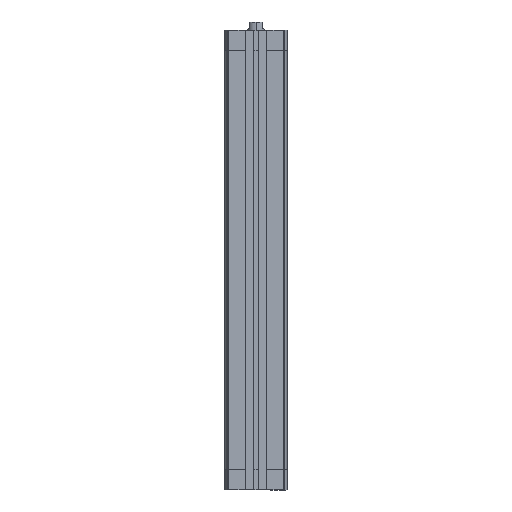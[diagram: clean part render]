
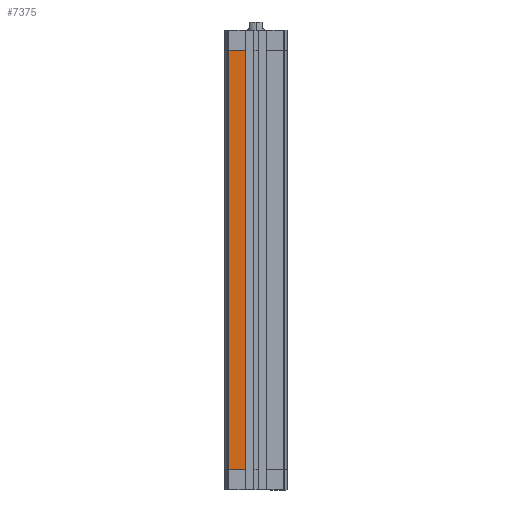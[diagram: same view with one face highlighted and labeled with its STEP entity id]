
A CAD part, left-side view. The second image highlights one B-rep face of the part: STEP entity #7375.
In plain terms, the highlighted planar face has unit normal (-1, 0, 0).
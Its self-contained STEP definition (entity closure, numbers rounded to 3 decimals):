
#491 = CARTESIAN_POINT ( 'NONE',  ( -23.25, 7.95, -329. ) ) ;
#634 = DIRECTION ( 'NONE',  ( 0., 0., 1. ) ) ;
#1245 = EDGE_CURVE ( 'NONE', #8440, #8387, #9989, .T. ) ;
#1552 = EDGE_CURVE ( 'NONE', #8440, #2555, #6515, .T. ) ;
#1907 = CARTESIAN_POINT ( 'NONE',  ( -23.25, 20.543, -329. ) ) ;
#2555 = VERTEX_POINT ( 'NONE', #14295 ) ;
#2720 = LINE ( 'NONE', #12907, #13423 ) ;
#2822 = ORIENTED_EDGE ( 'NONE', *, *, #1552, .F. ) ;
#2971 = EDGE_LOOP ( 'NONE', ( #7751, #2822, #9625, #13987 ) ) ;
#2973 = VECTOR ( 'NONE', #4114, 1000. ) ;
#4114 = DIRECTION ( 'NONE',  ( 0., 0., -1. ) ) ;
#4521 = DIRECTION ( 'NONE',  ( 0., 0., -1. ) ) ;
#5350 = CARTESIAN_POINT ( 'NONE',  ( -23.25, 20.543, -15. ) ) ;
#5877 = FACE_OUTER_BOUND ( 'NONE', #2971, .T. ) ;
#6397 = LINE ( 'NONE', #1907, #15570 ) ;
#6515 = LINE ( 'NONE', #491, #2973 ) ;
#7375 = ADVANCED_FACE ( 'NONE', ( #5877 ), #12676, .T. ) ;
#7751 = ORIENTED_EDGE ( 'NONE', *, *, #9581, .T. ) ;
#7894 = DIRECTION ( 'NONE',  ( -1., 0., 0. ) ) ;
#8387 = VERTEX_POINT ( 'NONE', #5350 ) ;
#8440 = VERTEX_POINT ( 'NONE', #13793 ) ;
#9581 = EDGE_CURVE ( 'NONE', #12039, #2555, #6397, .T. ) ;
#9625 = ORIENTED_EDGE ( 'NONE', *, *, #1245, .T. ) ;
#9989 = LINE ( 'NONE', #12028, #13107 ) ;
#10419 = DIRECTION ( 'NONE',  ( 0., 1., 0. ) ) ;
#11903 = AXIS2_PLACEMENT_3D ( 'NONE', #15028, #7894, #634 ) ;
#12028 = CARTESIAN_POINT ( 'NONE',  ( -23.25, 0., -15. ) ) ;
#12039 = VERTEX_POINT ( 'NONE', #15283 ) ;
#12597 = EDGE_CURVE ( 'NONE', #8387, #12039, #2720, .T. ) ;
#12676 = PLANE ( 'NONE',  #11903 ) ;
#12907 = CARTESIAN_POINT ( 'NONE',  ( -23.25, 20.543, -329. ) ) ;
#13107 = VECTOR ( 'NONE', #10419, 1000. ) ;
#13423 = VECTOR ( 'NONE', #4521, 1000. ) ;
#13793 = CARTESIAN_POINT ( 'NONE',  ( -23.25, 7.95, -15. ) ) ;
#13943 = DIRECTION ( 'NONE',  ( 0., -1., 0. ) ) ;
#13987 = ORIENTED_EDGE ( 'NONE', *, *, #12597, .T. ) ;
#14295 = CARTESIAN_POINT ( 'NONE',  ( -23.25, 7.95, -329. ) ) ;
#15028 = CARTESIAN_POINT ( 'NONE',  ( -23.25, 20.543, -329. ) ) ;
#15283 = CARTESIAN_POINT ( 'NONE',  ( -23.25, 20.543, -329. ) ) ;
#15570 = VECTOR ( 'NONE', #13943, 1000. ) ;
